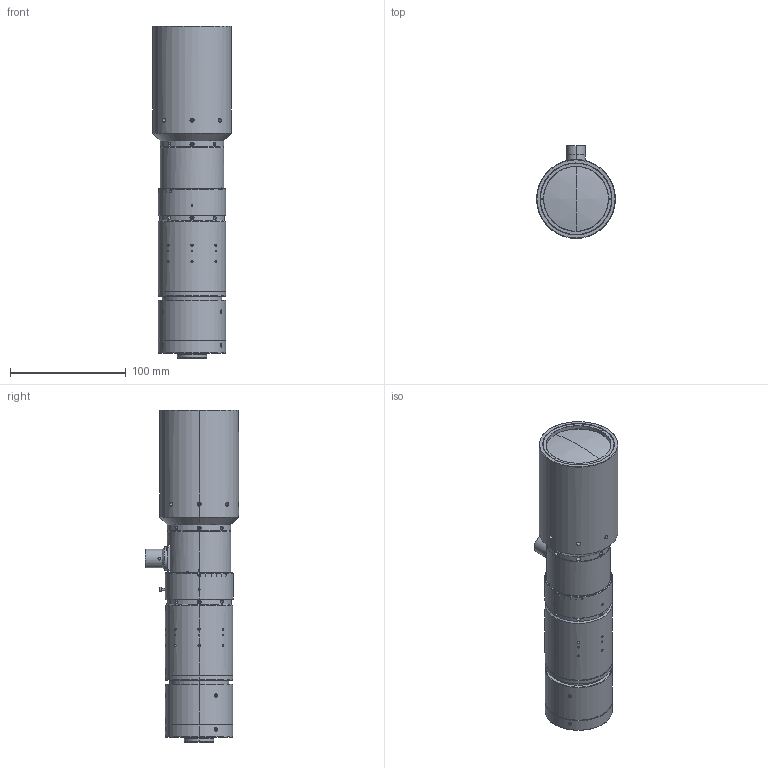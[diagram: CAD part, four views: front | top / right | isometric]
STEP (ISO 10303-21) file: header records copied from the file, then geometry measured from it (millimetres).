
FILE_DESCRIPTION (( 'STEP AP214' ), '1' );
FILE_NAME ('MML05-ZR150DVI-20C.STEP', '2026-02-17T01:41:38', ( '' ), ( '' ), 'SwSTEP 2.0', 'SolidWorks 2025', '' );
FILE_SCHEMA (( 'AUTOMOTIVE_DESIGN' ));
Length unit declared in the file: millimetre
Products named in the file (1): MML05-ZR150DVI-20C
Bounding box: 68 x 80.25 x 286.47 mm (x, y, z)
Volume: 718714.8 mm3; surface area: 81873.8 mm2
Topology: 1 solids, 1 shells, 909 faces, 2085 edges, 1291 vertices
Faces by surface type: cylinder 308, cone 277, plane 252, bspline 56, torus 8, sphere 8
Entity records: 35422 total; most frequent: CARTESIAN_POINT 15647, ORIENTED_EDGE 4158, DIRECTION 3905, EDGE_CURVE 2079, AXIS2_PLACEMENT_3D 1537, VERTEX_POINT 1291, EDGE_LOOP 1030, ADVANCED_FACE 909
